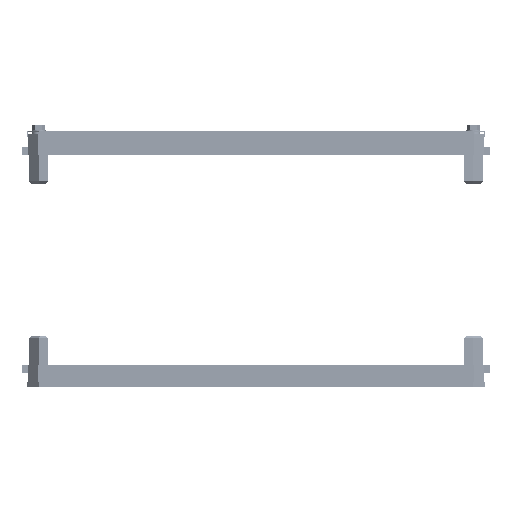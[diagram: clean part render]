
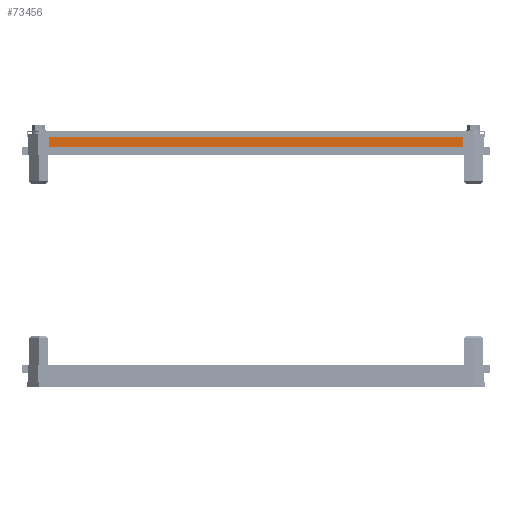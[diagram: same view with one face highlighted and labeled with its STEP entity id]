
A CAD part, front view. The second image highlights one B-rep face of the part: STEP entity #73456.
In plain terms, the highlighted planar face has unit normal (0, -1, 0).
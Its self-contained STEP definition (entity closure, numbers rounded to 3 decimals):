
#19283 = ORIENTED_EDGE ( 'NONE', *, *, #61310, .F. ) ;
#22546 = DIRECTION ( 'NONE',  ( 1., 0., 0. ) ) ;
#33314 = CARTESIAN_POINT ( 'NONE',  ( 153.95, -581.1, 430.9 ) ) ;
#35022 = VECTOR ( 'NONE', #66240, 1000. ) ;
#38307 = CARTESIAN_POINT ( 'NONE',  ( -554.05, -581.1, 409.7 ) ) ;
#48296 = VECTOR ( 'NONE', #22546, 1000. ) ;
#51721 = EDGE_LOOP ( 'NONE', ( #124926, #19283, #155700, #140700 ) ) ;
#52301 = CARTESIAN_POINT ( 'NONE',  ( -554.05, -581.1, 430.9 ) ) ;
#58670 = DIRECTION ( 'NONE',  ( 0., 0., 1. ) ) ;
#59454 = CARTESIAN_POINT ( 'NONE',  ( 153.95, -581.1, 408.4 ) ) ;
#60446 = PLANE ( 'NONE',  #123146 ) ;
#61310 = EDGE_CURVE ( 'NONE', #67711, #67655, #135907, .T. ) ;
#66240 = DIRECTION ( 'NONE',  ( 0., 0., 1. ) ) ;
#67655 = VERTEX_POINT ( 'NONE', #33314 ) ;
#67711 = VERTEX_POINT ( 'NONE', #116047 ) ;
#73456 = ADVANCED_FACE ( 'NONE', ( #163493 ), #60446, .F. ) ;
#73544 = LINE ( 'NONE', #86600, #178928 ) ;
#79998 = EDGE_CURVE ( 'NONE', #123308, #67711, #121969, .T. ) ;
#86099 = VECTOR ( 'NONE', #132560, 1000. ) ;
#86600 = CARTESIAN_POINT ( 'NONE',  ( 153.95, -581.1, 409.7 ) ) ;
#97177 = VERTEX_POINT ( 'NONE', #59454 ) ;
#111707 = EDGE_CURVE ( 'NONE', #97177, #123308, #162280, .T. ) ;
#116047 = CARTESIAN_POINT ( 'NONE',  ( -554.05, -581.1, 430.9 ) ) ;
#118922 = DIRECTION ( 'NONE',  ( 1., 0., 0. ) ) ;
#121969 = LINE ( 'NONE', #38307, #35022 ) ;
#123146 = AXIS2_PLACEMENT_3D ( 'NONE', #176536, #133762, #118922 ) ;
#123308 = VERTEX_POINT ( 'NONE', #163258 ) ;
#124926 = ORIENTED_EDGE ( 'NONE', *, *, #162776, .T. ) ;
#132560 = DIRECTION ( 'NONE',  ( -1., 0., 0. ) ) ;
#133762 = DIRECTION ( 'NONE',  ( 0., 1., 0. ) ) ;
#135907 = LINE ( 'NONE', #52301, #48296 ) ;
#140700 = ORIENTED_EDGE ( 'NONE', *, *, #111707, .F. ) ;
#148345 = CARTESIAN_POINT ( 'NONE',  ( -554.05, -581.1, 408.4 ) ) ;
#155700 = ORIENTED_EDGE ( 'NONE', *, *, #79998, .F. ) ;
#162280 = LINE ( 'NONE', #148345, #86099 ) ;
#162776 = EDGE_CURVE ( 'NONE', #97177, #67655, #73544, .T. ) ;
#163258 = CARTESIAN_POINT ( 'NONE',  ( -554.05, -581.1, 408.4 ) ) ;
#163493 = FACE_OUTER_BOUND ( 'NONE', #51721, .T. ) ;
#176536 = CARTESIAN_POINT ( 'NONE',  ( -554.05, -581.1, 409.7 ) ) ;
#178928 = VECTOR ( 'NONE', #58670, 1000. ) ;
